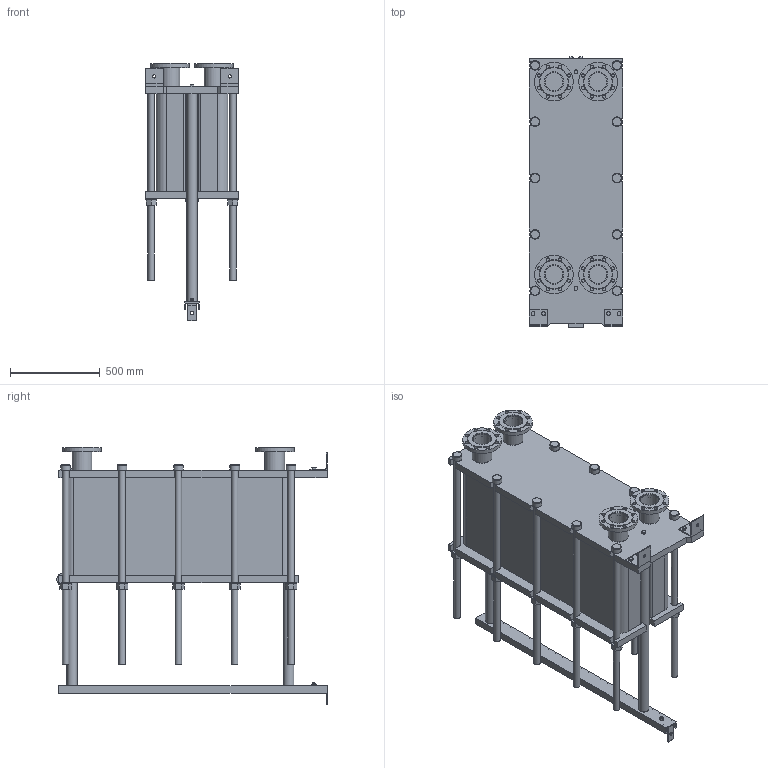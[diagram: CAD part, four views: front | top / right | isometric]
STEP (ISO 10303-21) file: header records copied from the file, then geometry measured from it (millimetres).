
FILE_DESCRIPTION(/* description */ (''),/* implementation_level */ '2;1');
FILE_NAME(/* name */ 'C:\Users\zhuro\Desktop\ENCO\TO\ЭН-04\ЭН-0,5-04-159-1.stp',/* time_stamp */ '2022-06-06T10:59:27+03:00',/* author */ ('zhuro'),/* organization */ (''),/* preprocessor_version */ 'ST-DEVELOPER v18.1',/* originating_system */ 'Autodesk Inventor 2022',/* authorisation */ '');
FILE_SCHEMA (('AUTOMOTIVE_DESIGN { 1 0 10303 214 3 1 1 }'));
Length unit declared in the file: millimetre
Products named in the file (1): ЭН-0,5-04-159-1
Bounding box: 520 x 1510 x 1439.5 mm (x, y, z)
Volume: 348523104 mm3; surface area: 9652677.5 mm2
Topology: 45 solids, 45 shells, 668 faces, 1611 edges, 1048 vertices
Faces by surface type: plane 457, cylinder 166, cone 39, torus 6
Full cylindrical faces by diameter (mm): 8 x4, 10 x2, 16 x8, 18 x35, 36 x25, 40 x2, 42 x1, 45 x4, 54 x10, 57 x2, 60 x10, 68 x2, 100 x4, 110 x8, 215 x4
Entity records: 23607 total; most frequent: CARTESIAN_POINT 7348, DIRECTION 3371, ORIENTED_EDGE 3142, EDGE_CURVE 1571, AXIS2_PLACEMENT_3D 1199, VERTEX_POINT 1044, LINE 973, VECTOR 973
